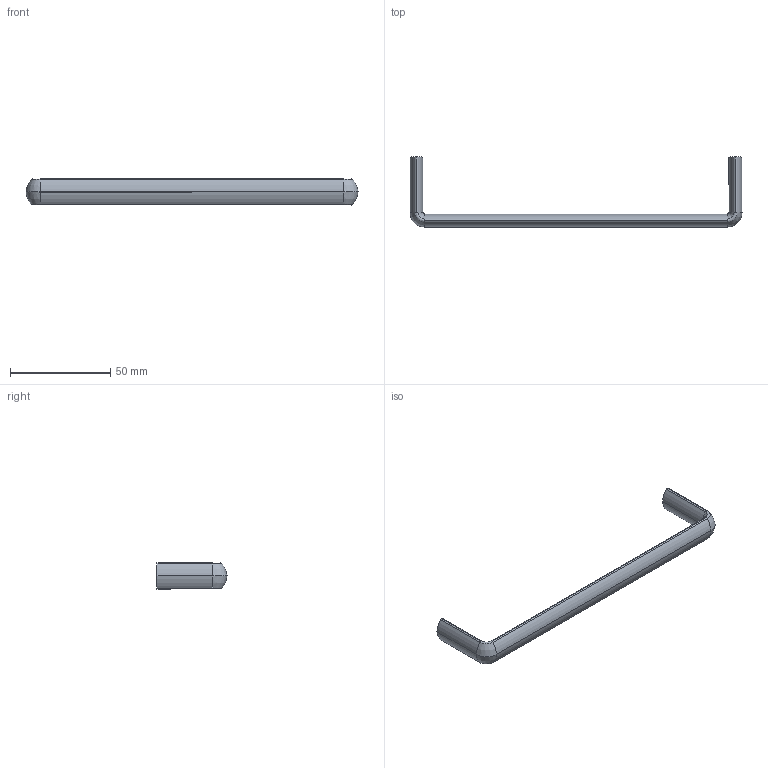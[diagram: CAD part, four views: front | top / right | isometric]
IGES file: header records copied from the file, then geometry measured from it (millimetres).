
Start section: Data from Parasolid IGES Translator 15.0.47, Copyright(c) 2006 Siemens P LM Software. All Rights Reserved.
Global section: file name: 9995472.igs; native system:  By UGS Corp.; preprocessor: XPlus GENERIC/IGES 3.0; author: Noname; organization: Noname; date: 20150708.113126; units: millimetre
Bounding box: 166 x 35 x 13 mm (x, y, z)
Surface area: 6981.4 mm2 (no closed solid volume)
Topology: 0 solids, 0 shells, 39 faces, 162 edges, 160 vertices
Faces by surface type: revolution 35, extrusion 4
